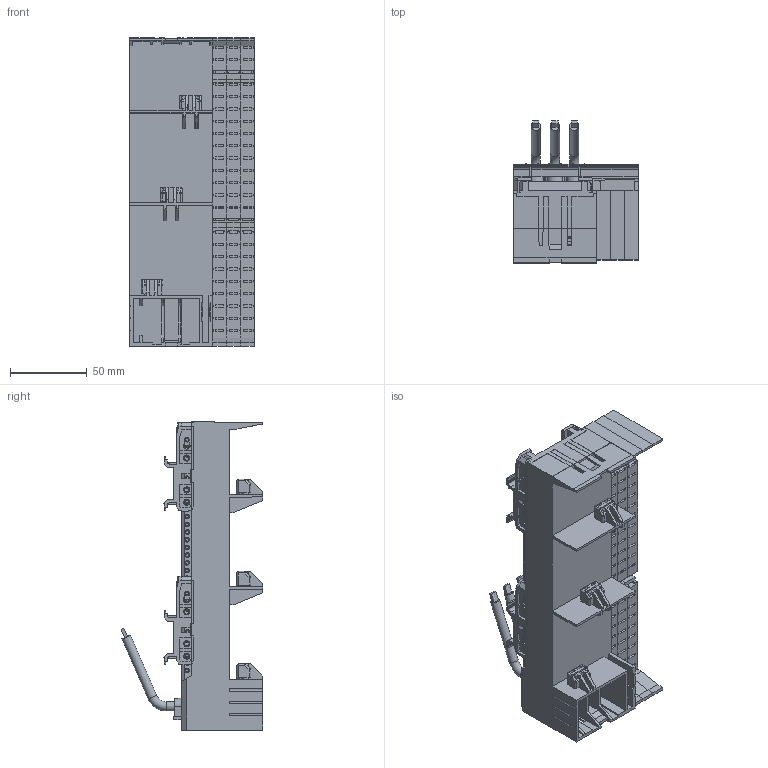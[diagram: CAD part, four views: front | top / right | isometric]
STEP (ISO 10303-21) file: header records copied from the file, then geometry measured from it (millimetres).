
FILE_DESCRIPTION (( 'STEP AP203' ), '1' );
FILE_NAME ('55373.STEP', '2021-08-18T05:52:19', ( '' ), ( '' ), 'SwSTEP 2.0', 'SolidWorks 2017', '' );
FILE_SCHEMA (( 'CONFIG_CONTROL_DESIGN' ));
Products named in the file (2): 55373
Bounding box: 81.05 x 92.2 x 200.4 mm (x, y, z)
Volume: 459577.1 mm3; surface area: 168672 mm2
Topology: 11 solids, 28 shells, 2870 faces, 7868 edges, 5244 vertices
Faces by surface type: plane 2100, cylinder 523, cone 173, bspline 71, torus 3
Full cylindrical faces by diameter (mm): 1.988 x130, 2.6 x14, 2.982 x12, 3.479 x8, 4.2 x2, 5.169 x2, 5.964 x11, 6 x6
Entity records: 109172 total; most frequent: CARTESIAN_POINT 39150, ORIENTED_EDGE 14754, DIRECTION 13144, EDGE_CURVE 7377, VECTOR 5562, LINE 5562, VERTEX_POINT 5102, AXIS2_PLACEMENT_3D 3791
